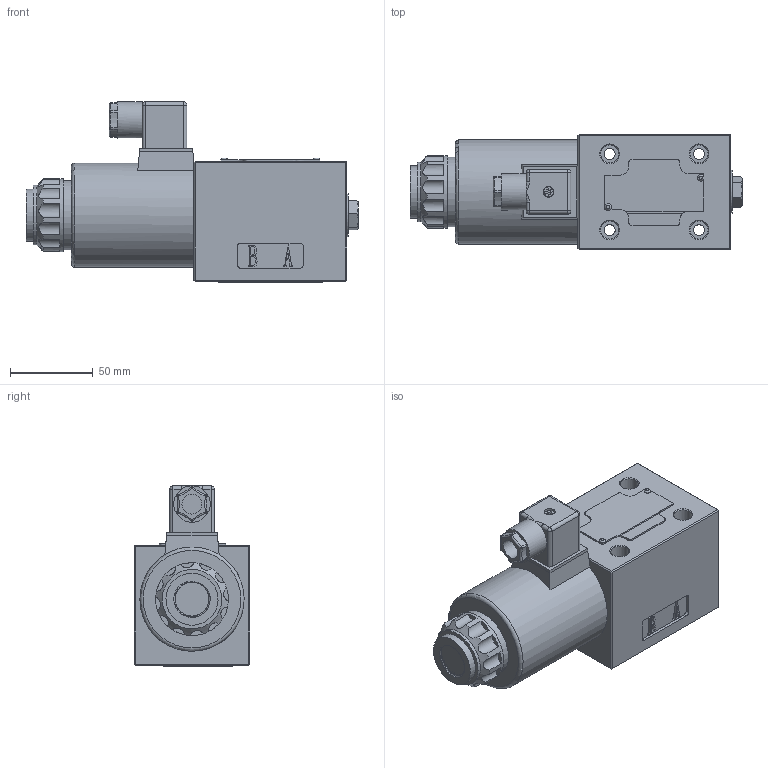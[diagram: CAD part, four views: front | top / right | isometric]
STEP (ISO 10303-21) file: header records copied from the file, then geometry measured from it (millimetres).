
FILE_DESCRIPTION(/* description */ (''),/* implementation_level */ '2;1');
FILE_NAME(/* name */ '4WE10-3XJ直流电磁阀（二位阀电磁铁在B端）.prt.stp',/* time_stamp */ '2022-03-30T19:33:50+08:00',/* author */ (''),/* organization */ (''),/* preprocessor_version */ 'ST-DEVELOPER v16.7',/* originating_system */ 'SIEMENS PLM Software NX 12.0',/* authorisation */ '');
FILE_SCHEMA (('AUTOMOTIVE_DESIGN { 1 0 10303 214 3 1 1 1 }'));
Products named in the file (1): 4WE10-3XJ直流电磁阀（二位阀电磁铁在B
端）
Bounding box: 200.7 x 70 x 109 mm (x, y, z)
Volume: 571609.4 mm3; surface area: 119590.3 mm2
Topology: 16 solids, 26 shells, 795 faces, 2028 edges, 1307 vertices
Faces by surface type: plane 470, cylinder 229, cone 35, bspline 24, torus 24, sphere 10, extrusion 3
Full cylindrical faces by diameter (mm): 1.8 x4, 1.9 x2, 2.55 x18, 3 x40, 3.5 x1, 3.6 x6, 5 x1, 6 x2, 6.5 x1, 6.6 x4, 11 x4, 12.085 x1, 15.7 x5, 16.5 x1, 17 x1, 21 x2, 21.4 x1, 22 x1, 23 x1, 24 x1, 26 x2, 31.5 x4, 33 x1, 36 x1, 42 x1, 44 x1, 63 x1
Entity records: 45249 total; most frequent: CARTESIAN_POINT 26110, ORIENTED_EDGE 3406, DIRECTION 3354, EDGE_CURVE 1703, VECTOR 1180, LINE 1177, VERTEX_POINT 1160, AXIS2_PLACEMENT_3D 1087
